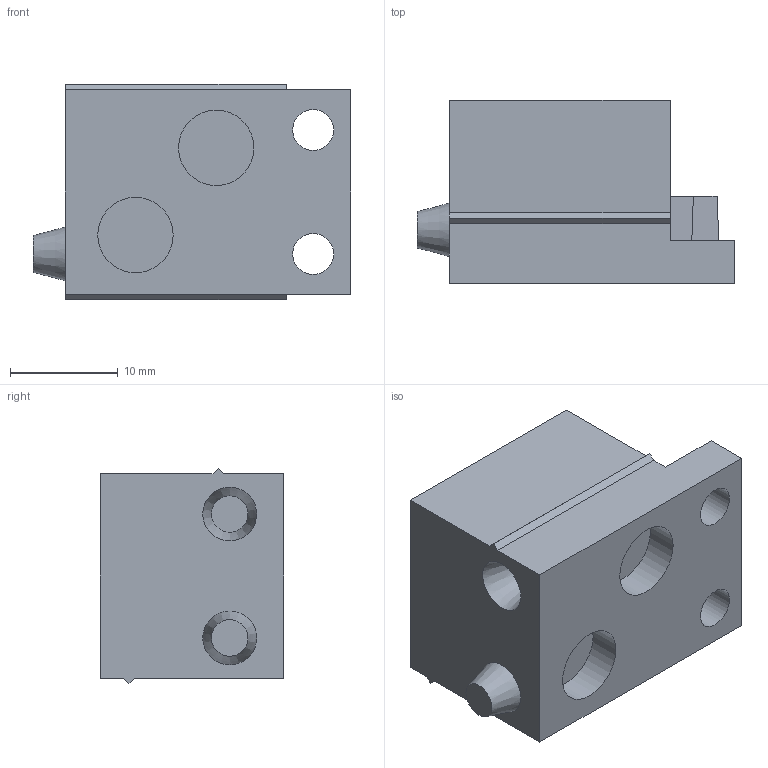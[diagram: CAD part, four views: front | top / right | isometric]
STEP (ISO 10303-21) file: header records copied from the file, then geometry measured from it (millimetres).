
FILE_DESCRIPTION(/* description */ ('STEP AP203'),/* implementation_level */ '2;1');
FILE_NAME(/* name */ '107853 TMS-STPG-GY',/* time_stamp */ '2024-10-04T14:42:16+02:00',/* author */ ('License CC BY-ND 4.0'),/* organization */ ('CADENAS'),/* preprocessor_version */ 'ST-DEVELOPER v19.3',/* originating_system */ 'PARTsolutions',/* authorisation */ ' ');
FILE_SCHEMA (('CONFIG_CONTROL_DESIGN','INTEGRATED_CNC_SCHEMA'));
Length unit declared in the file: millimetre
Products named in the file (1): 107853 TMS-STPG-GY
Bounding box: 29.5 x 17 x 20 mm (x, y, z)
Volume: 6616.1 mm3; surface area: 2849.1 mm2
Topology: 1 solids, 1 shells, 36 faces, 84 edges, 56 vertices
Faces by surface type: plane 28, cylinder 6, cone 2
Full cylindrical faces by diameter (mm): 3.8 x2, 7 x4
Entity records: 1022 total; most frequent: CARTESIAN_POINT 169, DIRECTION 166, ORIENTED_EDGE 152, EDGE_CURVE 76, LINE 60, VECTOR 60, VERTEX_POINT 56, EDGE_LOOP 54
